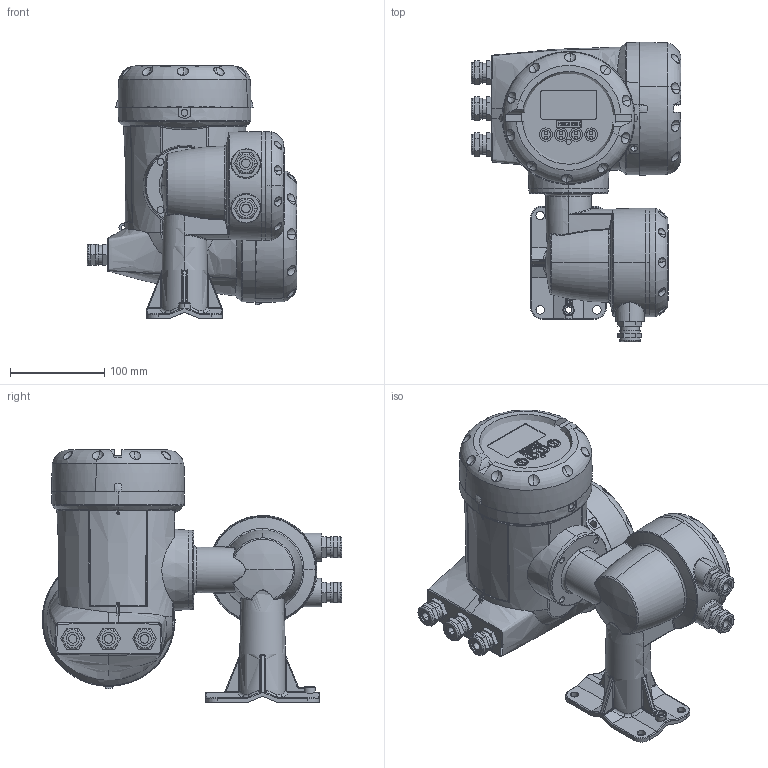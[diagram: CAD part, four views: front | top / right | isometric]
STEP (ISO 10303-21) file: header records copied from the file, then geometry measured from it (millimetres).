
FILE_DESCRIPTION (( 'STEP AP214' ), '1' );
FILE_NAME ('KROHNE_300F.STEP', '2009-11-24T11:59:08', ( 'desturmm' ), ( 'STURM Engineering & Marketing' ), 'SwSTEP 2.0', 'SolidWorks 2009', '' );
FILE_SCHEMA (( 'AUTOMOTIVE_DESIGN' ));
Length unit declared in the file: millimetre
Products named in the file (1): KROHNE_300F
Bounding box: 222.35 x 317.1 x 267.05 mm (x, y, z)
Surface area: 542296.4 mm2 (no closed solid volume)
Topology: 0 solids, 19 shells, 1128 faces, 2831 edges, 1741 vertices
Faces by surface type: plane 405, bspline 309, cylinder 241, cone 88, torus 62, sphere 23
Entity records: 101574 total; most frequent: CARTESIAN_POINT 64377, ORIENTED_EDGE 5455, DIRECTION 4500, EDGE_CURVE 2761, AXIS2_PLACEMENT_3D 1750, VERTEX_POINT 1741, EDGE_LOOP 1242, UNCERTAINTY_MEASURE_WITH_UNIT 1143
